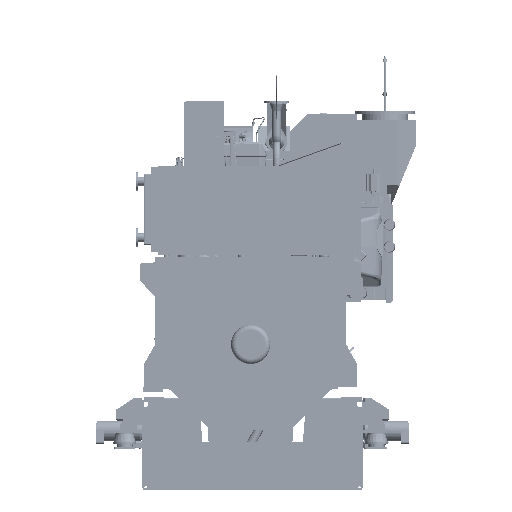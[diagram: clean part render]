
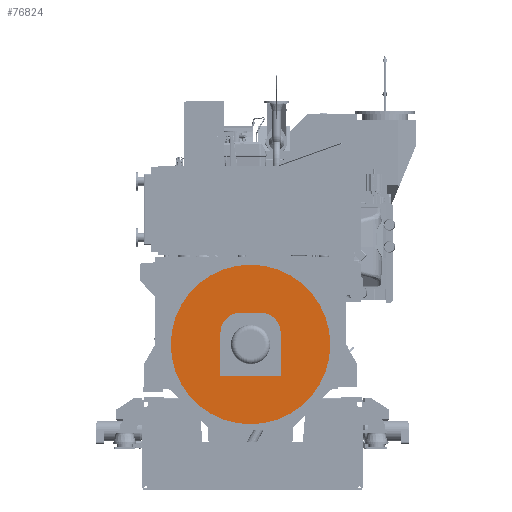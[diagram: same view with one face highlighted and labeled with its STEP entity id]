
A CAD part, left-side view. The second image highlights one B-rep face of the part: STEP entity #76824.
In plain terms, the highlighted planar face has unit normal (-1, 0, 0).
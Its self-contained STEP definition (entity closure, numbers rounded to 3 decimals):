
#49123=FACE_BOUND('',#137798,.T.);
#49124=FACE_BOUND('',#137799,.T.);
#60827=CIRCLE('',#481647,795.);
#60828=CIRCLE('',#481649,200.);
#60829=CIRCLE('',#481650,200.);
#76824=ADVANCED_FACE('',(#49123,#49124),#102758,.T.);
#102758=PLANE('',#481651);
#137798=EDGE_LOOP('',(#170860,#170861,#170862,#170863,#170864,#170865));
#137799=EDGE_LOOP('',(#170866));
#170860=ORIENTED_EDGE('',*,*,#342039,.F.);
#170861=ORIENTED_EDGE('',*,*,#342040,.F.);
#170862=ORIENTED_EDGE('',*,*,#342041,.F.);
#170863=ORIENTED_EDGE('',*,*,#342042,.F.);
#170864=ORIENTED_EDGE('',*,*,#342043,.F.);
#170865=ORIENTED_EDGE('',*,*,#342044,.F.);
#170866=ORIENTED_EDGE('',*,*,#342038,.T.);
#298596=VERTEX_POINT('',#643758);
#298597=VERTEX_POINT('',#643761);
#298598=VERTEX_POINT('',#643762);
#298599=VERTEX_POINT('',#643764);
#298600=VERTEX_POINT('',#643766);
#298601=VERTEX_POINT('',#643768);
#298602=VERTEX_POINT('',#643770);
#342038=EDGE_CURVE('',#298596,#298596,#60827,.T.);
#342039=EDGE_CURVE('',#298597,#298598,#405956,.T.);
#342040=EDGE_CURVE('',#298599,#298597,#405957,.T.);
#342041=EDGE_CURVE('',#298600,#298599,#405958,.T.);
#342042=EDGE_CURVE('',#298601,#298600,#60828,.T.);
#342043=EDGE_CURVE('',#298602,#298601,#405959,.T.);
#342044=EDGE_CURVE('',#298598,#298602,#60829,.T.);
#405956=LINE('',#643760,#443374);
#405957=LINE('',#643763,#443375);
#405958=LINE('',#643765,#443376);
#405959=LINE('',#643769,#443377);
#443374=VECTOR('',#523049,1.);
#443375=VECTOR('',#523050,1.);
#443376=VECTOR('',#523051,1.);
#443377=VECTOR('',#523054,1.);
#481647=AXIS2_PLACEMENT_3D('',#643757,#523045,#523046);
#481649=AXIS2_PLACEMENT_3D('',#643767,#523052,#523053);
#481650=AXIS2_PLACEMENT_3D('',#643771,#523055,#523056);
#481651=AXIS2_PLACEMENT_3D('',#643772,#523057,#523058);
#523045=DIRECTION('',(-1.,0.,0.));
#523046=DIRECTION('',(0.,0.,1.));
#523049=DIRECTION('',(0.,0.,1.));
#523050=DIRECTION('',(0.,-1.,0.));
#523051=DIRECTION('',(0.,0.,-1.));
#523052=DIRECTION('',(-1.,0.,0.));
#523053=DIRECTION('',(0.,0.,1.));
#523054=DIRECTION('',(0.,1.,0.));
#523055=DIRECTION('',(-1.,0.,0.));
#523056=DIRECTION('',(0.,0.,1.));
#523057=DIRECTION('',(-1.,0.,0.));
#523058=DIRECTION('',(0.,0.,1.));
#643757=CARTESIAN_POINT('',(-9067.,0.,0.));
#643758=CARTESIAN_POINT('',(-9067.,0.,795.));
#643760=CARTESIAN_POINT('',(-9067.,-300.,0.));
#643761=CARTESIAN_POINT('',(-9067.,-300.,-316.457));
#643762=CARTESIAN_POINT('',(-9067.,-300.,116.457));
#643763=CARTESIAN_POINT('',(-9067.,0.,-316.457));
#643764=CARTESIAN_POINT('',(-9067.,300.,-316.457));
#643765=CARTESIAN_POINT('',(-9067.,300.,0.));
#643766=CARTESIAN_POINT('',(-9067.,300.,116.457));
#643767=CARTESIAN_POINT('',(-9067.,100.,116.457));
#643768=CARTESIAN_POINT('',(-9067.,100.,316.457));
#643769=CARTESIAN_POINT('',(-9067.,0.,316.457));
#643770=CARTESIAN_POINT('',(-9067.,-100.,316.457));
#643771=CARTESIAN_POINT('',(-9067.,-100.,116.457));
#643772=CARTESIAN_POINT('',(-9067.,0.,0.));
